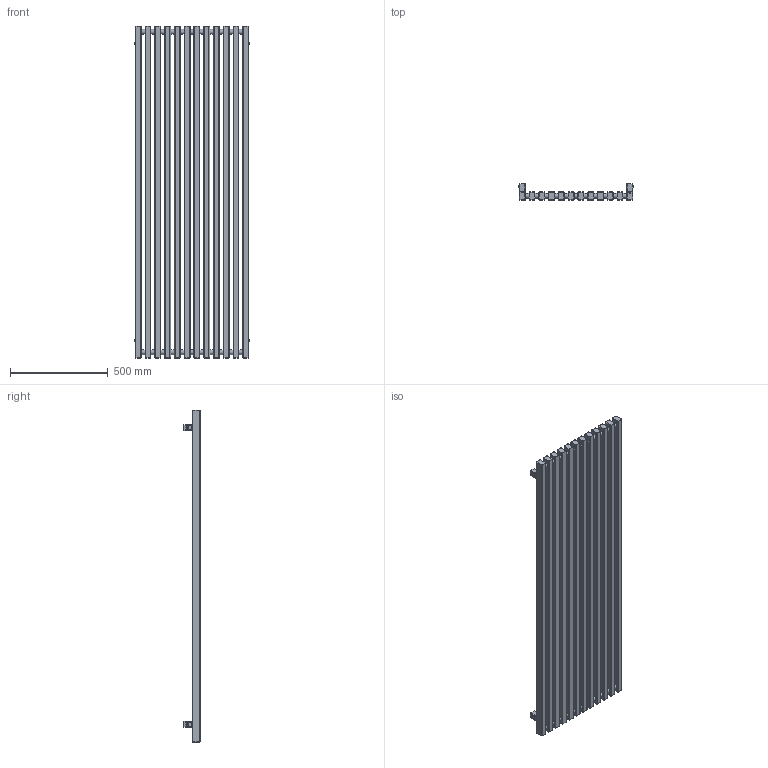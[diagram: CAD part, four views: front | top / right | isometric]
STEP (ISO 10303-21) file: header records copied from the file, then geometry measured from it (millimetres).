
FILE_DESCRIPTION((''),'2;1');
FILE_NAME('Z:\R\G\P\RGP029 - Grzejnik Triga ( ZET)\Work\Inventor\Triga v1.1\Marketing\AutoCad 3D\G-TR-XX-MK-XX-17-68-ZX.stp','2012-07-26T13:08:21',('DawPi'),(''),'Autodesk Inventor 2012','Autodesk Inventor 2012','');
FILE_SCHEMA(('AUTOMOTIVE_DESIGN { 1 0 10303 214 1 1 1 1 }'));
Length unit declared in the file: millimetre
Products named in the file (3): G-TR-XX-MK-XX-17-68-ZX; MMT42
Assembly tree (5 placements, depth 2):
  G-TR-XX-MK-XX-17-68-ZX
    G-TR-XX-MK-XX-17-68-ZX
    MMT42  x4
Bounding box: 586 x 82 x 1700 mm (x, y, z)
Volume: 24672995.3 mm3; surface area: 2822859.8 mm2
Topology: 5 solids, 5 shells, 541 faces, 1217 edges, 731 vertices
Faces by surface type: cylinder 225, plane 183, bspline 96, cone 24, torus 13
Full cylindrical faces by diameter (mm): 4.134 x4, 4.509 x4, 10 x4, 11.445 x1, 12 x4, 18.631 x2, 25 x22
Entity records: 18359 total; most frequent: CARTESIAN_POINT 9498, DIRECTION 1970, ORIENTED_EDGE 1692, EDGE_CURVE 846, AXIS2_PLACEMENT_3D 810, VERTEX_POINT 522, EDGE_LOOP 508, CIRCLE 492
